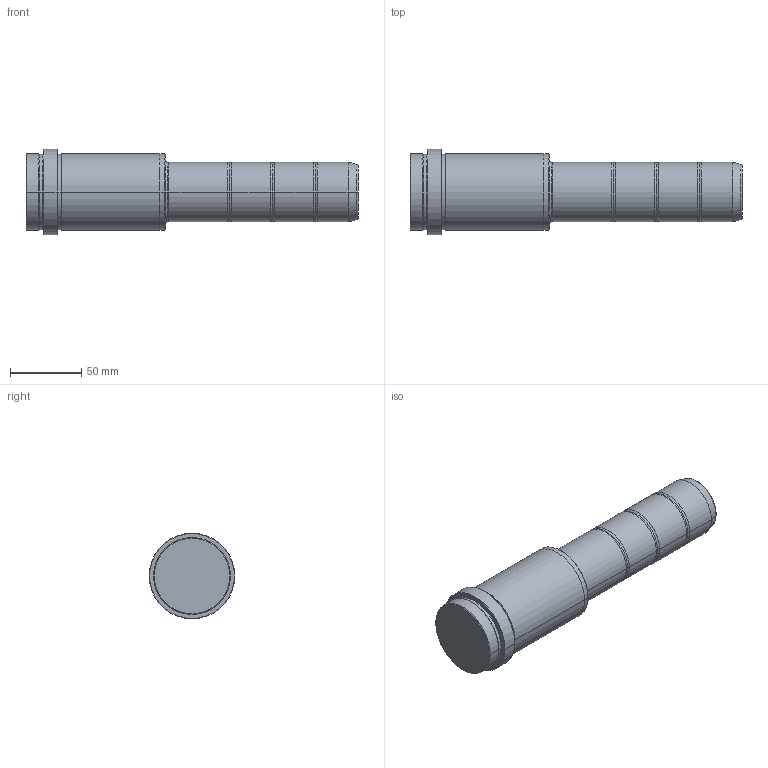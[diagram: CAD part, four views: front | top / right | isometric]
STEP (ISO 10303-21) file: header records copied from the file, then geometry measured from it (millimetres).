
FILE_DESCRIPTION (( 'STEP AP203' ), '1' );
FILE_NAME ('GDP-EC-42-086-135.step', '2015-12-05T19:48:08', ( '' ), ( '' ), 'SwSTEP 2.0', 'SolidWorks 2009', '' );
FILE_SCHEMA (( 'CONFIG_CONTROL_DESIGN' ));
Length unit declared in the file: millimetre
Products named in the file (1): GDP-EC-42-086-135
Bounding box: 233 x 60 x 60 mm (x, y, z)
Volume: 415207.3 mm3; surface area: 40022.4 mm2
Topology: 1 solids, 1 shells, 64 faces, 126 edges, 70 vertices
Faces by surface type: torus 26, cylinder 20, cone 10, plane 8
Entity records: 1727 total; most frequent: DIRECTION 352, CARTESIAN_POINT 261, ORIENTED_EDGE 252, AXIS2_PLACEMENT_3D 161, EDGE_CURVE 126, CIRCLE 96, VERTEX_POINT 70, EDGE_LOOP 70
